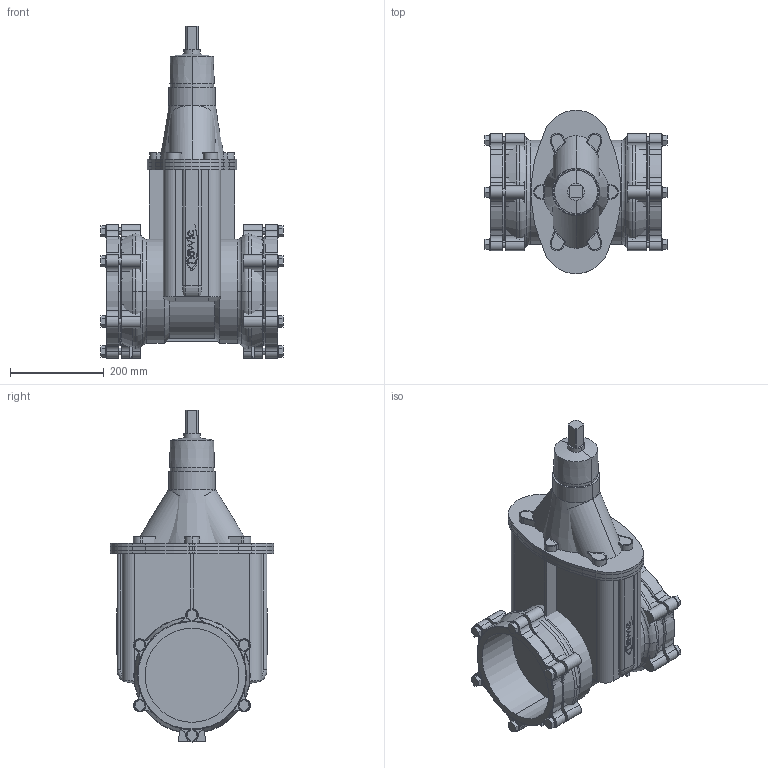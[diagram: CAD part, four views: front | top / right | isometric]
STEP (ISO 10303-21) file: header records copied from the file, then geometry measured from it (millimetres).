
FILE_DESCRIPTION(('STEP AP214'),'1');
FILE_NAME('S:/EK/USER/CAT6/3DHomepage/4040E2/4040E2-PN16-DN200-200.STP','2012-04-24T11:21:52',(' '),(' '),'Spatial InterOp 3D',' ',' ');
FILE_SCHEMA(('automotive_design'));
Length unit declared in the file: millimetre
Products named in the file (113): 3D-Objekt
Bounding box: 387.6 x 348.01 x 707 mm (x, y, z)
Volume: 24323349.7 mm3; surface area: 1877209 mm2
Topology: 113 solids, 113 shells, 884 faces, 1960 edges, 1304 vertices
Faces by surface type: plane 500, cylinder 338, torus 28, cone 14, bspline 4
Entity records: 34389 total; most frequent: DIRECTION 4734, CARTESIAN_POINT 4329, ORIENTED_EDGE 3920, EDGE_CURVE 1960, AXIS2_PLACEMENT_3D 1781, VERTEX_POINT 1304, LINE 1172, VECTOR 1172
